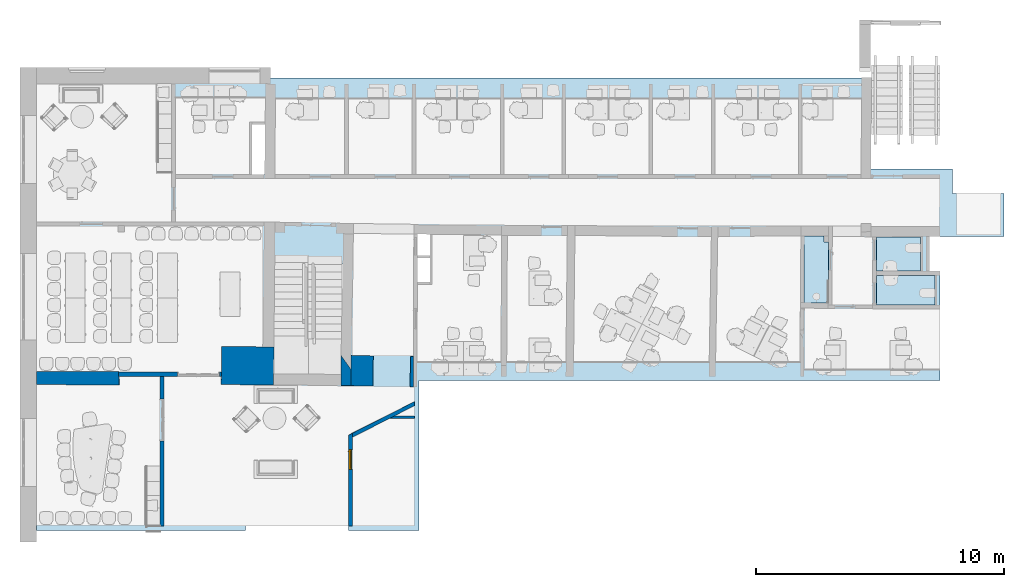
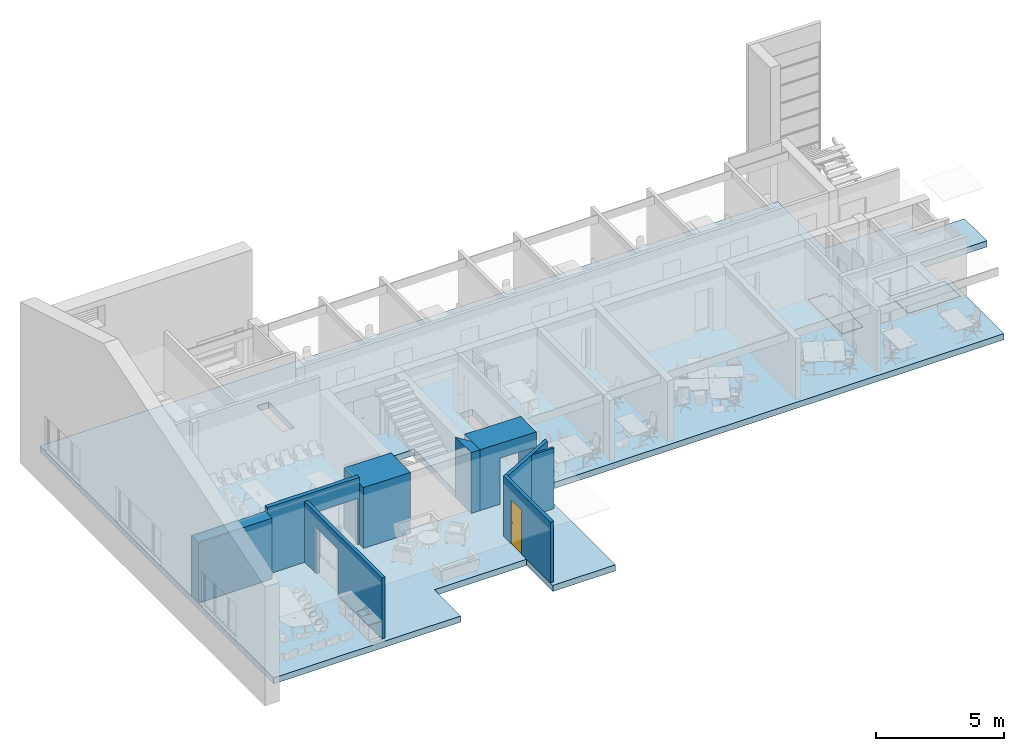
# One storey, part 1 of 19: 9 walls, 4 slabs, 1 door, 8 openings.
"""IFC2X3 building model written with IfcOpenShell, lengths in millimetres."""

from ifc_helpers import new_model, entity, si_unit, converted_unit, derived_unit, direction, frame, frame_2d, origin, place, context, subcontext, project, spatial, polyline, rectangle, outline, extrude, clip, bounded_halfspace, faceted_brep, source, transform, mapped, material, material_list, layer, layer_set, layer_usage, type_object, type_shapes, element, fill, save


model = new_model("IFC2X3")

# Units and contexts
model_context = context("Model", 3, precision=0.01, world=origin(), true_north=direction((6.12303176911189e-17, 1.0)))
context_of_model = context(None, 3, precision=0.01, world=origin(), true_north=direction((6.12303176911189e-17, 1.0)))
body_context = subcontext(model_context, "Body", "Model", "MODEL_VIEW")
ifc_project = project(units=[si_unit("LENGTHUNIT", "METRE", prefix="MILLI"), si_unit("AREAUNIT", "SQUARE_METRE"), si_unit("VOLUMEUNIT", "CUBIC_METRE"), converted_unit("PLANEANGLEUNIT", "DEGREE", entity("IfcRatioMeasure", 0.0174532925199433), si_unit("PLANEANGLEUNIT", "RADIAN"), dimensions=[0, 0, 0, 0, 0, 0, 0]), si_unit("MASSUNIT", "GRAM", prefix="KILO"), derived_unit("MASSDENSITYUNIT", [(si_unit("MASSUNIT", "GRAM", prefix="KILO"), 1), (si_unit("LENGTHUNIT", "METRE"), -3)]), si_unit("TIMEUNIT", "SECOND"), si_unit("FREQUENCYUNIT", "HERTZ"), si_unit("THERMODYNAMICTEMPERATUREUNIT", "DEGREE_CELSIUS"), derived_unit("THERMALTRANSMITTANCEUNIT", [(si_unit("MASSUNIT", "GRAM", prefix="KILO"), 1), (si_unit("THERMODYNAMICTEMPERATUREUNIT", "KELVIN"), -1), (si_unit("TIMEUNIT", "SECOND"), -3)]), derived_unit("VOLUMETRICFLOWRATEUNIT", [(si_unit("LENGTHUNIT", "METRE"), 3), (si_unit("TIMEUNIT", "SECOND"), -1)]), si_unit("ELECTRICCURRENTUNIT", "AMPERE"), si_unit("ELECTRICVOLTAGEUNIT", "VOLT"), si_unit("POWERUNIT", "WATT"), si_unit("FORCEUNIT", "NEWTON", prefix="KILO"), si_unit("ILLUMINANCEUNIT", "LUX"), si_unit("LUMINOUSFLUXUNIT", "LUMEN"), si_unit("LUMINOUSINTENSITYUNIT", "CANDELA"), derived_unit("USERDEFINED", [(si_unit("MASSUNIT", "GRAM", prefix="KILO"), -1), (si_unit("LENGTHUNIT", "METRE"), -2), (si_unit("TIMEUNIT", "SECOND"), 3), (si_unit("LUMINOUSFLUXUNIT", "LUMEN"), 1)]), derived_unit("LINEARVELOCITYUNIT", [(si_unit("LENGTHUNIT", "METRE"), 1), (si_unit("TIMEUNIT", "SECOND"), -1)]), si_unit("PRESSUREUNIT", "PASCAL"), derived_unit("USERDEFINED", [(si_unit("LENGTHUNIT", "METRE"), -2), (si_unit("MASSUNIT", "GRAM", prefix="KILO"), 1), (si_unit("TIMEUNIT", "SECOND"), -2)])], contexts=[model_context, context_of_model])

# Site, building, storey
site_placement = place(None, frame((121442.264707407, 135347.995453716, -1800.0)))
site = spatial("IfcSite", under=ifc_project, at=site_placement, Name="Surface", CompositionType="ELEMENT")
building_placement = place(site_placement, origin())
building = spatial("IfcBuilding", under=site, at=building_placement, CompositionType="ELEMENT")
storey_placement = place(building_placement, frame((0.0, 0.0, 5125.0)))
storey = spatial("IfcBuildingStorey", under=building, at=storey_placement, Name="2 korrus", CompositionType="ELEMENT", Elevation=5125.00000000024)

# Slab, openings
ifc_material_1 = material(Name="EST. Linoleum")
ifc_layer_1 = layer(ifc_material_1, 3.0)
ifc_material_2 = material(Name="Concrete - Cast In Situ")
ifc_layer_2 = layer(ifc_material_2, 70.0)
ifc_layer_3 = layer(ifc_material_2, 220.0)
ifc_layer_set_1 = layer_set([ifc_layer_1, ifc_layer_2, ifc_layer_3], Name="Floor:Paneel 220 +80 tasandus")
ifc_layer_usage_1 = layer_usage(ifc_layer_set_1, "AXIS3", "POSITIVE", 0.0)
slab_1_placement = place(storey_placement, frame((-118935.776610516, -133344.099932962, -293.0)))
slab_1 = element("IfcSlab", 1, at=slab_1_placement, inside=storey, material=ifc_layer_usage_1, Name="Floor:Paneel 220 +80 tasandus", ObjectType="Floor:Paneel 220 +80 tasandus", PredefinedType="FLOOR", context=body_context, shape_type="SweptSolid", body=[
    extrude(outline(polyline([(-13765.1018847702, 9120.25772087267), (-13765.1018847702, 5448.55274321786), (-17414.8981152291, 5448.55274321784), (-17414.8981152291, 4468.55274321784), (-19494.8981152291, 4468.55274321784), (-19494.8981152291, 2722.93033258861), (-16494.898115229, 2722.93033258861), (-16494.898115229, 1341.47514417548), (-16914.8981152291, 1341.47514417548), (-16914.898115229, -3080.25772087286), (4085.10188477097, -3080.25772087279), (4085.10188477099, -9120.25772087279), (6909.36615502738, -9120.25772087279), (6909.36615502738, -7060.25772087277), (11060.2332963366, -7060.25772087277), (11060.2332963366, -9120.25772087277), (19494.8981152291, -9120.25772087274), (19494.8981152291, 9120.25772087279), (-13765.1018847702, 9120.25772087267)])), frame((19494.8981152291, 9120.25772087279, 293.0), z_axis=(0.0, 0.0, -1.0), x_axis=(-1.0, 0.0, 0.0)), (0.0, 0.0, 1.0), 293.0),
])
opening_1_placement = place(storey_placement, frame((-118935.776610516, -133344.099932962, -293.0)))
element("IfcOpeningElement", 2, at=opening_1_placement, cuts=slab_1, ObjectType="Opening", context=body_context, shape_type="SweptSolid", body=[
    extrude(rectangle(XDim=859.999999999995, YDim=505.000000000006, at=frame_2d((3889.64166217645, 2391.89003033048), x_axis=(0.0, -1.0))), frame((19494.8981152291, 9120.25772087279, 293.0), z_axis=(0.0, 0.0, -1.0), x_axis=(-1.0, 0.0, 0.0)), (0.0, 0.0, 1.0), 293.0),
])
opening_2_placement = place(storey_placement, frame((-118935.776610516, -133344.099932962, -293.0)))
element("IfcOpeningElement", 3, at=opening_2_placement, cuts=slab_1, ObjectType="Opening", context=body_context, shape_type="SweptSolid", body=[
    extrude(rectangle(XDim=1927.87629135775, YDim=572.038950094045, at=frame_2d((3929.82770378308, 1857.9518846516), x_axis=(0.0, -1.0))), frame((19494.8981152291, 9120.25772087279, 293.0), z_axis=(0.0, 0.0, -1.0), x_axis=(-1.0, 0.0, 0.0)), (0.0, 0.0, 1.0), 293.0),
])
opening_3_placement = place(storey_placement, frame((-118935.776610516, -133344.099932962, -293.0)))
element("IfcOpeningElement", 4, at=opening_3_placement, cuts=slab_1, ObjectType="Opening", context=body_context, shape_type="SweptSolid", body=[
    extrude(rectangle(XDim=2004.99999999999, YDim=535.0, at=frame_2d((10545.9194588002, 6232.42818101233), x_axis=(0.0, -1.0))), frame((19494.8981152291, 9120.25772087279, 293.0), z_axis=(0.0, 0.0, -1.0), x_axis=(-1.0, 0.0, 0.0)), (0.0, 0.0, 1.0), 293.0),
])
opening_4_placement = place(slab_1_placement, frame((10930.7337999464, 8409.86691623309, 293.0)))
element("IfcOpeningElement", 5, at=opening_4_placement, cuts=slab_1, Name="Floor:Paneel 220 +80 tasandus:2", ObjectType="Opening", context=body_context, shape_type="SweptSolid", body=[
    extrude(outline(polyline([(-1550.07253711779, -2330.00134025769), (1616.8069393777, -2330.00134025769), (1532.64247962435, 2345.49892399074), (-1599.37688188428, 2314.5037565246), (-1550.07253711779, -2330.00134025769)])), frame((0.0, 0.0, 0.0), z_axis=(0.0, 0.0, -1.0), x_axis=(1.0, 0.0, 0.0)), (0.0, 0.0, 1.0), 293.0),
])

# Slabs
ifc_material_3 = material(Name="EST. Põrand. Plaatkate")
ifc_layer_4 = layer(ifc_material_3, 3.0)
ifc_layer_set_2 = layer_set([ifc_layer_4], Name="Floor:Keraamiline plaat 200x200")
ifc_layer_usage_2 = layer_usage(ifc_layer_set_2, "AXIS3", "POSITIVE", 0.0)
slab_2_placement = place(storey_placement, origin())
element("IfcSlab", 6, at=slab_2_placement, inside=storey, material=ifc_layer_usage_2, Name="Floor:Keraamiline plaat 200x200", ObjectType="Floor:Keraamiline plaat 200x200", PredefinedType="FLOOR", context=body_context, shape_type="SweptSolid", body=[
    extrude(rectangle(XDim=1374.46107188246, YDim=1782.05635023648, at=frame_2d((8.64019966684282e-12, -8.64019966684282e-12), x_axis=(1.0, 0.0))), frame((-84194.5085551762, -122195.136531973, 1.0), z_axis=(0.0, 0.0, -1.0), x_axis=(0.0, 1.0, 0.0)), (0.0, 0.0, 1.0), 3.0000000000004),
])
ifc_layer_usage_3 = layer_usage(ifc_layer_set_2, "AXIS3", "POSITIVE", 0.0)
slab_3_placement = place(storey_placement, origin())
element("IfcSlab", 7, at=slab_3_placement, inside=storey, material=ifc_layer_usage_3, Name="Floor:Keraamiline plaat 200x200", ObjectType="Floor:Keraamiline plaat 200x200", PredefinedType="FLOOR", context=body_context, shape_type="SweptSolid", body=[
    extrude(rectangle(XDim=1192.5101243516, YDim=2352.05635023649, at=frame_2d((8.69704308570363e-12, 8.64019966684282e-12), x_axis=(1.0, 0.0))), frame((-83909.5085551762, -123658.62213009, 1.0), z_axis=(0.0, 0.0, -1.0), x_axis=(0.0, 1.0, 0.0)), (0.0, 0.0, 1.0), 3.0000000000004),
])
ifc_layer_usage_4 = layer_usage(ifc_layer_set_2, "AXIS3", "POSITIVE", 0.0)
slab_4_placement = place(storey_placement, origin())
element("IfcSlab", 8, at=slab_4_placement, inside=storey, material=ifc_layer_usage_4, Name="Floor:Keraamiline plaat 200x200", ObjectType="Floor:Keraamiline plaat 200x200", PredefinedType="FLOOR", context=body_context, shape_type="SweptSolid", body=[
    extrude(outline(polyline([(-263.628958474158, -1503.37629771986), (696.371041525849, -1503.37629771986), (680.899512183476, 1183.3762977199), (-123.135058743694, 1183.3762977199), (-123.135058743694, 943.376297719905), (-301.871259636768, 943.376297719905), (-301.871259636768, -623.376297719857), (-263.628958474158, -623.376297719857), (-263.628958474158, -1503.37629771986)])), frame((-87317.4157081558, -122666.73460627, 1.0), z_axis=(0.0, 0.0, -1.0), x_axis=(-1.0, 0.0, 0.0)), (0.0, 0.0, 1.0), 3.0000000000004),
])

# Wall
ifc_material_4 = material(Name="__Betoonelement")
ifc_layer_5 = layer(ifc_material_4, 400.0)
ifc_layer_set_3 = layer_set([ifc_layer_5], Name="Basic Wall:40_Betoon")
ifc_layer_usage_5 = layer_usage(ifc_layer_set_3, "AXIS2", "NEGATIVE", 200.0)
wall_type_1 = type_object("IfcWallType", Name="Basic Wall:40_Betoon", PredefinedType="STANDARD", material=ifc_layer_set_3)
wall_1_placement = place(storey_placement, frame((-106459.588041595, -127506.848996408, 0.0), z_axis=(0.0, 0.0, 1.0), x_axis=(0.0, 1.0, 0.0)))
element("IfcWallStandardCase", 9, at=wall_1_placement, inside=storey, type_object=wall_type_1, material=ifc_layer_usage_5, Name="Basic Wall:40_Betoon", ObjectType="Basic Wall:40_Betoon", context=body_context, shape_type="Clipping", body=[
    clip(extrude(outline(polyline([(659.260030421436, -200.0), (1218.46951873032, 200.0), (3.95848989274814, 200.0), (0.0, -200.0), (659.260030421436, -200.0)])), origin(), (0.0, 0.0, 1.0), 2897.0), bounded_halfspace(frame((0.0, -200.0, 2897.0), z_axis=(0.0, 0.0, -1.0), x_axis=(-1.0, 0.0, 0.0)), True, frame((0.0, -200.0, 2897.0)), polyline([(0.0, 0.0), (659.260030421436, 0.0), (1122.26677665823, 331.186616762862), (370.867980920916, 331.186616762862), (3.27749718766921, 331.186616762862), (0.0, 0.0)]))),
])

# Wall, opening
ifc_layer_6 = layer(ifc_material_4, 180.0)
ifc_layer_set_4 = layer_set([ifc_layer_6], Name="Basic Wall:18_Betoon 3")
ifc_layer_usage_6 = layer_usage(ifc_layer_set_4, "AXIS2", "NEGATIVE", 90.0)
wall_type_2 = type_object("IfcWallType", Name="Basic Wall:18_Betoon 3", PredefinedType="STANDARD", material=ifc_layer_set_4)
wall_2_placement = place(storey_placement, frame((-115625.819045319, -127042.499098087, 0.0)))
wall_2 = element("IfcWallStandardCase", 10, at=wall_2_placement, inside=storey, type_object=wall_type_2, material=ifc_layer_usage_6, Name="Basic Wall:18_Betoon 3", ObjectType="Basic Wall:18_Betoon 3", context=body_context, shape_type="SweptSolid", body=[
    extrude(rectangle(XDim=4143.74127342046, YDim=179.999999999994, at=frame_2d((2071.87063671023, 0.0), x_axis=(-1.0, 0.0))), origin(), (0.0, 0.0, 1.0), 3190.0),
])
opening_5_placement = place(wall_2_placement, frame((4073.74127342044, 90.0, 0.0)))
element("IfcOpeningElement", 11, at=opening_5_placement, cuts=wall_2, Name="M_Door-Exterior-Double:1600X2100 SU-6 Kahepoolne siseuks:1", ObjectType="Opening", context=body_context, shape_type="SweptSolid", body=[
    extrude(rectangle(XDim=2200.0, YDim=1700.0, at=frame_2d((1100.0, 850.0), x_axis=(1.0, 0.0))), frame((0.0, 0.0, 0.0), z_axis=(0.0, -1.0, 0.0), x_axis=(0.0, 0.0, 1.0)), (0.0, 0.0, 1.0), 180.0),
])

# Walls
ifc_layer_7 = layer(ifc_material_4, 530.0)
ifc_layer_set_5 = layer_set([ifc_layer_7], Name="Basic Wall:53_Betoon 3")
ifc_layer_usage_7 = layer_usage(ifc_layer_set_5, "AXIS2", "POSITIVE", -265.0)
wall_type_3 = type_object("IfcWallType", Name="Basic Wall:53_Betoon 3", PredefinedType="STANDARD", material=ifc_layer_set_5)
wall_3_placement = place(storey_placement, frame((-118929.49876951, -127201.019015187, 0.0), z_axis=(0.0, 0.0, 1.0), x_axis=(0.999996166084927, -0.00276908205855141, 0.0)))
element("IfcWallStandardCase", 12, at=wall_3_placement, inside=storey, type_object=wall_type_3, material=ifc_layer_usage_7, Name="Basic Wall:53_Betoon 3", ObjectType="Basic Wall:53_Betoon 3", context=body_context, shape_type="Clipping", body=[
    clip(extrude(rectangle(XDim=3319.00780064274, YDim=529.999999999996, at=frame_2d((1659.50390032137, 6.16751094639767e-12), x_axis=(-1.0, 0.0))), origin(), (0.0, 0.0, 1.0), 2897.0), bounded_halfspace(frame((0.0, -265.0, 2897.0), z_axis=(0.0, 0.0, -1.0), x_axis=(0.00276908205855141, -0.999996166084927, 0.0)), True, frame((0.0, -265.0, 2897.0)), polyline([(0.0, 0.0), (3319.00780064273, 0.0), (3319.00780064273, 174.741177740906), (0.0, 165.550537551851), (0.0, 0.0)]))),
])
ifc_layer_8 = layer(ifc_material_4, 1540.0)
ifc_layer_set_6 = layer_set([ifc_layer_8], Name="Basic Wall:154_Betoon 8")
ifc_layer_usage_8 = layer_usage(ifc_layer_set_6, "AXIS2", "POSITIVE", -770.0)
wall_type_4 = type_object("IfcWallType", Name="Basic Wall:154_Betoon 8", PredefinedType="STANDARD", material=ifc_layer_set_6)
wall_4_placement = place(storey_placement, frame((-109371.32507766, -126718.1268892, 0.0), z_axis=(0.0, 0.0, 1.0), x_axis=(-0.999904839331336, 0.0137953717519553, 0.0)))
element("IfcWallStandardCase", 13, at=wall_4_placement, inside=storey, type_object=wall_type_4, material=ifc_layer_usage_8, Name="Basic Wall:154_Betoon 8", ObjectType="Basic Wall:154_Betoon 8", context=body_context, shape_type="Clipping", body=[
    clip(extrude(outline(polyline([(2107.31858185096, -770.0), (2107.31858185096, 770.0), (0.0, 770.0), (4.89810774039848, -770.0), (454.900383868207, -770.0), (2107.31858185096, -770.0)])), origin(), (0.0, 0.0, 1.0), 2897.0), bounded_halfspace(frame((2107.31858185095, 611.470638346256, 2897.0), z_axis=(0.0, 0.0, -1.0), x_axis=(-0.0137953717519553, 0.999904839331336, 0.0)), True, frame((2107.31858185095, 611.470638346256, 2897.0)), polyline([(0.0, 0.0), (0.0, 158.529361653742), (-2107.31858185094, 158.529361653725), (-2107.28008546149, 146.425822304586), (-2106.72191873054, -29.0657779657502), (-2106.19872602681, -193.561294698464), (-1958.44244956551, -191.522747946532), (-1960.71160999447, -27.051319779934), (0.0, 0.0)]))),
])

# Wall, opening
ifc_layer_9 = layer(ifc_material_4, 1220.0)
ifc_layer_set_7 = layer_set([ifc_layer_9], Name="Basic Wall:122_Betoon 8")
ifc_layer_usage_9 = layer_usage(ifc_layer_set_7, "AXIS2", "POSITIVE", -610.0)
wall_type_5 = type_object("IfcWallType", Name="Basic Wall:122_Betoon 8", PredefinedType="STANDARD", material=ifc_layer_set_7)
wall_5_placement = place(storey_placement, frame((-106260.154290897, -126897.547986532, 0.0), z_axis=(0.0, 0.0, 1.0), x_axis=(0.999847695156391, -0.0174524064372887, 0.0)))
wall_5 = element("IfcWallStandardCase", 14, at=wall_5_placement, inside=storey, type_object=wall_type_5, material=ifc_layer_usage_9, Name="Basic Wall:122_Betoon 8", ObjectType="Basic Wall:122_Betoon 8", context=body_context, shape_type="Clipping", body=[
    clip(extrude(outline(polyline([(11.2139251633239, -610.0), (2522.06204711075, -610.0), (2504.95416766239, 610.0), (0.0, 610.0), (-0.305742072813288, 49.9612939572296), (11.1999319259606, -609.198327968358), (11.2139251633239, -610.0)])), origin(), (0.0, 0.0, 1.0), 2897.0), bounded_halfspace(frame((11.2139251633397, -610.0, 2897.0), z_axis=(0.0, 0.0, -1.0), x_axis=(0.0174524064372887, -0.999847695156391, 0.0)), True, frame((11.2139251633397, -610.0, 2897.0)), polyline([(0.0, 0.0), (2510.84812194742, 0.0), (2493.74024249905, 1220.0), (-11.2139251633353, 1220.0), (-11.5196672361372, 659.961293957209), (-0.01399323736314, 0.801672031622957), (0.0, 0.0)]))),
])
opening_6_placement = place(wall_5_placement, frame((104029.302771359, 128732.716276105, 0.0), z_axis=(0.0, 0.0, 1.0), x_axis=(0.999847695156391, 0.0174524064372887, 0.0)))
element("IfcOpeningElement", 15, at=opening_6_placement, cuts=wall_5, Name="Basic Wall:122_Betoon 8", ObjectType="Opening", context=body_context, shape_type="SweptSolid", body=[
    extrude(rectangle(XDim=2190.0, YDim=1499.99999999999, at=frame_2d((0.0, -8.69704308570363e-12), x_axis=(1.0, 0.0))), frame((-104635.523696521, -127840.045246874, 1095.0), z_axis=(0.0174524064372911, 0.999847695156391, 0.0), x_axis=(0.0, 0.0, -1.0)), (0.0, 0.0, 1.0), 3048.0),
])

ifc_material_5 = material(Name="Plaster")
ifc_layer_10 = layer(ifc_material_5, 10.0)
ifc_material_6 = material(Name="EST. Müüritis. Väikeplokk. Kergkruusplokk")
ifc_layer_11 = layer(ifc_material_6, 130.0)
ifc_layer_12 = layer(ifc_material_5, 10.0)
ifc_layer_set_8 = layer_set([ifc_layer_10, ifc_layer_11, ifc_layer_12], Name="Basic Wall:15_FIBO")
ifc_layer_usage_10 = layer_usage(ifc_layer_set_8, "AXIS2", "POSITIVE", -75.0)
wall_type_6 = type_object("IfcWallType", Name="Basic Wall:15_FIBO", PredefinedType="STANDARD", material=ifc_layer_set_8)
wall_6_placement = place(storey_placement, frame((-113873.710568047, -133150.92716597, 0.0), z_axis=(0.0, 0.0, 1.0), x_axis=(0.0, 1.0, 0.0)))
wall_6 = element("IfcWallStandardCase", 16, at=wall_6_placement, inside=storey, type_object=wall_type_6, material=ifc_layer_usage_10, Name="Basic Wall:15_FIBO", ObjectType="Basic Wall:15_FIBO", context=body_context, shape_type="Clipping", body=[
    clip(extrude(rectangle(XDim=6018.42806788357, YDim=150.000000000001, at=frame_2d((3009.21403394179, 4.61852778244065e-13), x_axis=(-1.0, 0.0))), origin(), (0.0, 0.0, 1.0), 2897.0), bounded_halfspace(frame((0.0, -75.0, 2897.0), z_axis=(0.0, 0.0, -1.0), x_axis=(-1.0, 0.0, 0.0)), True, frame((0.0, -75.0, 2897.0)), polyline([(0.0, 0.0), (5850.45906961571, 0.0), (5850.45906961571, 150.0), (0.0, 150.0), (0.0, 0.0)]))),
])
opening_7_placement = place(wall_6_placement, frame((5117.42806788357, 75.0, 0.0)))
element("IfcOpeningElement", 17, at=opening_7_placement, cuts=wall_6, Name="M_Door-Exterior-Double:1600X2100 SU-6 Kahepoolne siseuks:1", ObjectType="Opening", context=body_context, shape_type="SweptSolid", body=[
    extrude(rectangle(XDim=2200.0, YDim=1700.0, at=frame_2d((1100.0, 850.0), x_axis=(1.0, 0.0))), frame((0.0, 0.0, 0.0), z_axis=(0.0, -1.0, 0.0), x_axis=(0.0, 0.0, 1.0)), (0.0, 0.0, 1.0), 150.0),
])

# Wall, opening, door
ifc_layer_usage_11 = layer_usage(ifc_layer_set_8, "AXIS2", "POSITIVE", -75.0)
wall_7_placement = place(storey_placement, frame((-106275.244650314, -133150.927165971, 0.0), z_axis=(0.0, 0.0, 1.0), x_axis=(0.0, 1.0, 0.0)))
wall_7 = element("IfcWallStandardCase", 18, at=wall_7_placement, inside=storey, type_object=wall_type_6, material=ifc_layer_usage_11, Name="Basic Wall:15_FIBO", ObjectType="Basic Wall:15_FIBO", context=body_context, shape_type="Clipping", body=[
    clip(extrude(outline(polyline([(0.0, -75.0), (3561.60968978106, -75.0), (3729.9586254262, -75.0), (3653.52980800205, 75.0), (0.0, 75.0), (0.0, -75.0)])), origin(), (0.0, 0.0, 1.0), 2897.0), bounded_halfspace(frame((0.0, -75.0, 2897.0), z_axis=(0.0, 0.0, -1.0), x_axis=(-1.0, 0.0, 0.0)), True, frame((0.0, -75.0, 2897.0)), polyline([(0.0, 0.0), (3561.60968978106, 0.0), (3729.9586254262, 0.0), (3653.52980800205, 150.0), (0.0, 150.0), (0.0, 0.0)]))),
])
opening_8_placement = place(wall_7_placement, frame((2270.0, -75.0, 0.0)))
opening_8 = element("IfcOpeningElement", 19, at=opening_8_placement, cuts=wall_7, Name="sma_D01:810 x 2110_SU-01 Siseuks:1", ObjectType="Opening", context=body_context, shape_type="SweptSolid", body=[
    extrude(rectangle(XDim=2099.99999999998, YDim=810.0, at=frame_2d((1049.99999999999, 405.000000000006), x_axis=(1.0, 0.0))), frame((0.0, 0.0, 0.0), z_axis=(0.0, 1.0, 0.0), x_axis=(0.0, 0.0, 1.0)), (0.0, 0.0, 1.0), 150.0),
])
ifc_material_7 = material(Name="Metal - Aluminium")
ifc_material_8 = material(Name="Door - Panel_valge")
ifc_material_list_1 = material_list([ifc_material_7, ifc_material_8])
ifc_material_list_2 = material_list([ifc_material_7, ifc_material_8])
door_style = type_object("IfcDoorStyle", Name="810 x 2110_SU-01 Siseuks", ConstructionType="NOTDEFINED", OperationType="SINGLE_SWING_LEFT", ParameterTakesPrecedence=False, Sizeable=False, material=ifc_material_list_2)
shared_shape = source(origin(), body_context, "Body", "Brep", [
    faceted_brep([(710.0, 40.0, 1112.5), (615.0, 40.0, 1112.5), (615.0, 35.0, 1112.5), (735.0, 35.0, 1112.5), (735.0, 78.0, 1112.5), (710.0, 78.0, 1112.5), (710.0, 40.0, 1087.5), (710.0, 78.0, 1087.5), (735.0, 78.0, 1087.5), (735.0, 35.0, 1087.5), (615.0, 35.0, 1087.5), (615.0, 40.0, 1087.5)], [[[0, 1, 2, 3, 4, 5]], [[6, 7, 8, 9, 10, 11]], [[5, 7, 6, 0]], [[4, 8, 7, 5]], [[3, 9, 8, 4]], [[2, 10, 9, 3]], [[1, 11, 10, 2]], [[0, 6, 11, 1]]]),
    faceted_brep([(697.500000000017, 78.0, 1137.5), (747.500000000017, 78.0, 1137.5), (747.500000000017, 80.0, 1137.5), (697.500000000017, 80.0, 1137.5), (697.500000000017, 78.0, 1017.5), (697.500000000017, 80.0, 1017.5), (747.500000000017, 80.0, 1017.5), (747.500000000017, 78.0, 1017.5)], [[[0, 1, 2, 3]], [[4, 5, 6, 7]], [[3, 5, 4, 0]], [[2, 6, 5, 3]], [[1, 7, 6, 2]], [[0, 4, 7, 1]]]),
    faceted_brep([(710.0, 170.0, 1112.5), (710.0, 132.0, 1112.5), (735.0, 132.0, 1112.5), (735.0, 175.0, 1112.5), (615.0, 175.0, 1112.5), (615.0, 170.0, 1112.5), (710.0, 170.0, 1087.5), (615.0, 170.0, 1087.5), (615.0, 175.0, 1087.5), (735.0, 175.0, 1087.5), (735.0, 132.0, 1087.5), (710.0, 132.0, 1087.5)], [[[0, 1, 2, 3, 4, 5]], [[6, 7, 8, 9, 10, 11]], [[1, 0, 6, 11]], [[2, 1, 11, 10]], [[3, 2, 10, 9]], [[4, 3, 9, 8]], [[5, 4, 8, 7]], [[0, 5, 7, 6]]]),
    faceted_brep([(697.500000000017, 132.0, 1137.5), (697.500000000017, 130.0, 1137.5), (747.500000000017, 130.0, 1137.5), (747.500000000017, 132.0, 1137.5), (697.500000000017, 132.0, 1017.5), (747.500000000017, 132.0, 1017.5), (747.500000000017, 130.0, 1017.5), (697.500000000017, 130.0, 1017.5)], [[[0, 1, 2, 3]], [[4, 5, 6, 7]], [[1, 0, 4, 7]], [[2, 1, 7, 6]], [[3, 2, 6, 5]], [[0, 3, 5, 4]]]),
    faceted_brep([(0.0, 40.0, 0.0), (0.0, 130.0, 0.0), (25.0, 130.0, 0.0), (25.0, 80.0, 0.0), (40.0, 80.0, 0.0), (40.0, 40.0, 0.0), (40.0, 40.0, 2060.0), (770.0, 40.0, 2060.0), (770.0, 40.0, 0.0), (810.0, 40.0, 0.0), (810.0, 40.0, 2100.0), (0.0, 40.0, 2100.0), (40.0, 80.0, 2060.0), (25.0, 80.0, 2075.0), (785.0, 80.0, 2075.0), (785.0, 80.0, 0.0), (770.0, 80.0, 0.0), (770.0, 80.0, 2060.0), (25.0, 130.0, 2075.0), (0.0, 130.0, 2100.0), (810.0, 130.0, 2100.0), (810.0, 130.0, 0.0), (785.0, 130.0, 0.0), (785.0, 130.0, 2075.0)], [[[0, 1, 2, 3, 4, 5]], [[5, 6, 7, 8, 9, 10, 11, 0]], [[4, 12, 6, 5]], [[3, 13, 14, 15, 16, 17, 12, 4]], [[2, 18, 13, 3]], [[1, 19, 20, 21, 22, 23, 18, 2]], [[0, 11, 19, 1]], [[10, 9, 21, 20]], [[9, 8, 16, 15, 22, 21]], [[17, 16, 8, 7]], [[23, 22, 15, 14]], [[12, 17, 7, 6]], [[18, 23, 14, 13]], [[11, 10, 20, 19]]]),
    faceted_brep([(785.0, 80.0, 2075.0), (25.0, 80.0, 2075.0), (25.0, 80.0, 20.0), (785.0, 80.0, 20.0), (785.0, 130.0, 2075.0), (785.0, 130.0, 20.0), (25.0, 130.0, 20.0), (25.0, 130.0, 2075.0)], [[[0, 1, 2, 3]], [[4, 5, 6, 7]], [[3, 5, 4, 0]], [[2, 6, 5, 3]], [[1, 7, 6, 2]], [[0, 4, 7, 1]]]),
    faceted_brep([(40.0, 40.0, 30.0), (40.0, 80.0, 30.0), (40.0, 80.0, 20.0), (40.0, 80.0, 0.0), (40.0, 40.0, 0.0), (770.0, 40.0, 30.0), (770.0, 40.0, 0.0), (770.0, 80.0, 0.0), (770.0, 80.0, 20.0), (770.0, 80.0, 30.0), (25.0, 80.0, 0.0), (25.0, 130.0, 0.0), (785.0, 130.0, 0.0), (785.0, 80.0, 0.0), (25.0, 130.0, 20.0), (25.0, 80.0, 20.0), (785.0, 130.0, 20.0), (785.0, 80.0, 20.0)], [[[0, 1, 2, 3, 4]], [[5, 6, 7, 8, 9]], [[4, 6, 5, 0]], [[3, 10, 11, 12, 13, 7, 6, 4]], [[9, 8, 2, 1]], [[0, 5, 9, 1]], [[14, 11, 10, 15]], [[16, 17, 13, 12]], [[15, 2, 8, 17, 16, 14]], [[10, 3, 2, 15]], [[14, 16, 12, 11]], [[17, 8, 7, 13]]]),
])
type_shapes(door_style, [shared_shape])
door_placement = place(opening_8_placement, origin())
door = element("IfcDoor", 20, at=door_placement, inside=storey, type_object=door_style, material=ifc_material_list_1, Name="sma_D01:810 x 2110_SU-01 Siseuks", ObjectType="810 x 2110_SU-01 Siseuks", OverallHeight=2099.99999999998, OverallWidth=810.000000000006, context=body_context, shape_type="MappedRepresentation", body=[
    mapped(shared_shape, transform((0.0, 0.0, 0.0), scale=1.0)),
])
fill(opening_8, door)

# Walls
ifc_layer_usage_12 = layer_usage(ifc_layer_set_8, "AXIS2", "POSITIVE", -75.0)
wall_8_placement = place(storey_placement, frame((-106234.293937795, -129522.491986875, 0.0), z_axis=(0.0, 0.0, 1.0), x_axis=(0.891006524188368, 0.453990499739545, 0.0)))
element("IfcWallStandardCase", 21, at=wall_8_placement, inside=storey, type_object=wall_type_6, material=ifc_layer_usage_12, Name="Basic Wall:15_FIBO", ObjectType="Basic Wall:15_FIBO", context=body_context, shape_type="Clipping", body=[
    clip(extrude(outline(polyline([(2816.78607020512, -75.0), (2893.21488762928, 75.0), (76.4288174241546, 75.0), (0.0, -75.0), (1664.10751658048, -75.0), (1884.37644303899, -75.0), (2816.78607020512, -75.0)])), origin(), (0.0, 0.0, 1.0), 2897.0), bounded_halfspace(frame((0.0, -75.0, 2897.0), z_axis=(0.0, 0.0, -1.0), x_axis=(-0.453990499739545, -0.891006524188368, 0.0)), True, frame((0.0, -75.0, 2897.0)), polyline([(0.0, 0.0), (2816.78607020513, 0.0), (2893.21488762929, 150.0), (76.4288174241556, 150.0), (0.0, 0.0)]))),
])
ifc_layer_13 = layer(ifc_material_5, 5.0)
ifc_material_9 = material(Name="CMU, Lightweight")
ifc_layer_14 = layer(ifc_material_9, 90.0)
ifc_layer_15 = layer(ifc_material_5, 5.0)
ifc_layer_set_9 = layer_set([ifc_layer_13, ifc_layer_14, ifc_layer_15], Name="Basic Wall:10_FIBO + 2xKROHV")
ifc_layer_usage_13 = layer_usage(ifc_layer_set_9, "AXIS2", "POSITIVE", -50.0)
wall_type_7 = type_object("IfcWallType", Name="Basic Wall:10_FIBO + 2xKROHV", PredefinedType="STANDARD", material=ifc_layer_set_9)
wall_9_placement = place(storey_placement, frame((-103690.469884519, -128783.828473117, 0.0), z_axis=(0.0, 0.0, 1.0), x_axis=(-1.0, 0.0, 0.0)))
element("IfcWallStandardCase", 22, at=wall_9_placement, inside=storey, type_object=wall_type_7, material=ifc_layer_usage_13, Name="Basic Wall:10_FIBO + 2xKROHV", ObjectType="Basic Wall:10_FIBO + 2xKROHV", context=body_context, shape_type="SweptSolid", body=[
    extrude(outline(polyline([(830.783061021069, -50.0), (1027.04411157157, 50.0), (0.0, 50.0), (0.0, -50.0), (830.783061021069, -50.0)])), origin(), (0.0, 0.0, 1.0), 2890.0),
])

save(model, "model.ifc")
